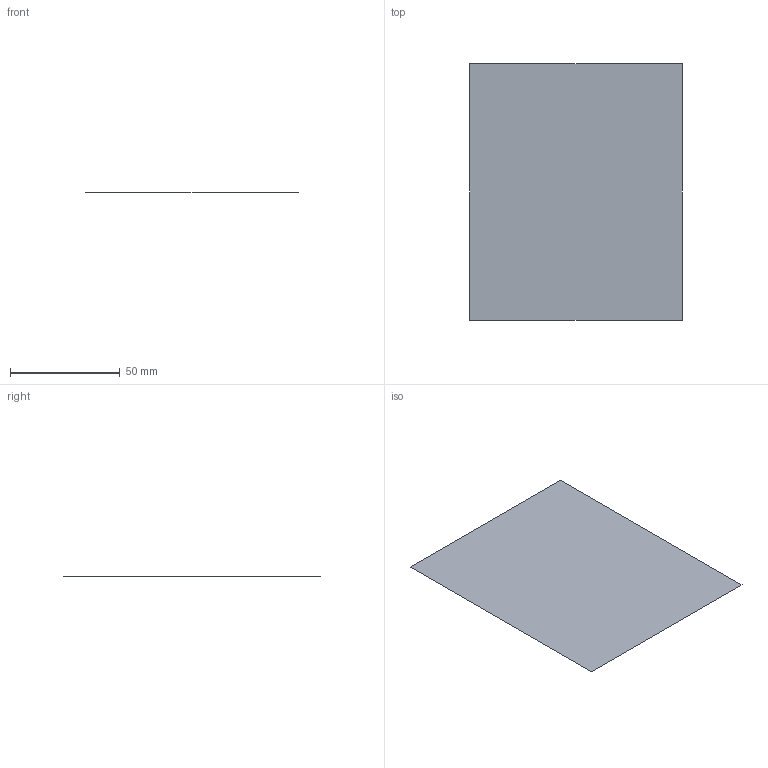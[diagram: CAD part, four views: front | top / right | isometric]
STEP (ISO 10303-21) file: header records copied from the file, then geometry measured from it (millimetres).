
FILE_DESCRIPTION(('CATIA V5 STEP Exchange'),'2;1');
FILE_NAME('C:\_Andres\UNIVERSIDAD\IQS\ASIGNATURAS\DAO\EXF\EXF-15161c\1original\Ferrer_Costa_Ej06-calculo_v7.stp','2016-03-04T20:57:42+00:00',('none'),('none'),'CATIA Version 5 Release 20 SP 1 (IN-10)','CATIA V5 STEP AP203','none');
FILE_SCHEMA(('CONFIG_CONTROL_DESIGN'));
Length unit declared in the file: millimetre
Products named in the file (1): Ferrer_Costa_Ej06-calculo_v7
Bounding box: 97 x 117 x 0 mm (x, y, z)
Surface area: 11349 mm2 (no closed solid volume)
Topology: 0 solids, 1 shells, 1 faces, 8 edges, 9 vertices
Faces by surface type: plane 1
Entity records: 130 total; most frequent: CARTESIAN_POINT 23, DIRECTION 12, VECTOR 8, LINE 8, COMPOSITE_CURVE_SEGMENT 4, ORIENTED_EDGE 4, CC_DESIGN_PERSON_AND_ORGANIZATION_ASSIGNMENT 4, PERSON_AND_ORGANIZATION_ROLE 4
